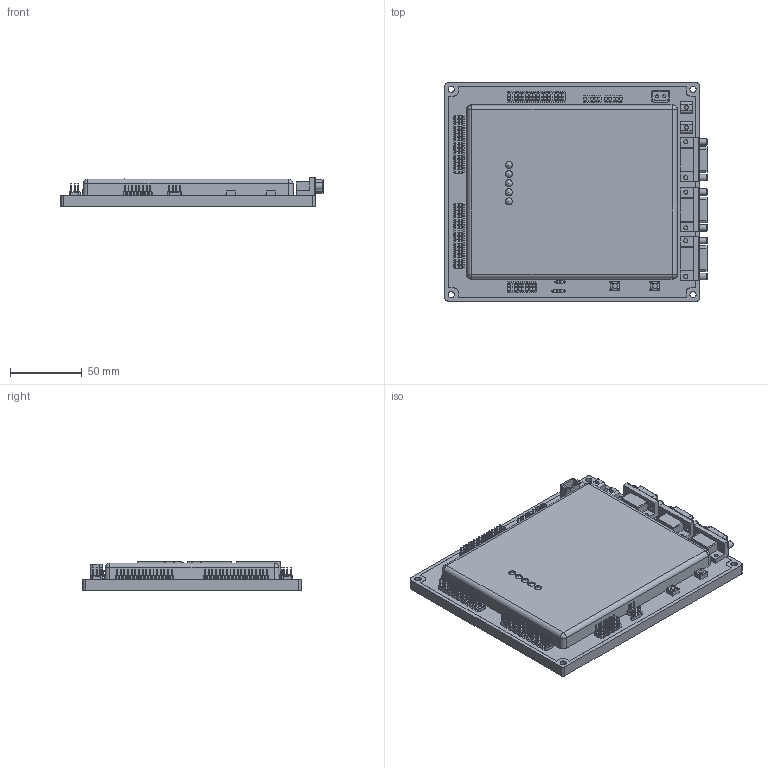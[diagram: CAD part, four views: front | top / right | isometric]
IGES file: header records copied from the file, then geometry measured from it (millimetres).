
Global section: file name: No Iges File Name specified; native system: AutoDesk Inventor R6.0; preprocessor: AutoDesk Inventor Iges Exporter R6.0; author: No Author specified; organization: No Organization specified; date: 20060107.205903; units: inch
Bounding box: 183.2 x 152.4 x 20.33 mm (x, y, z)
Surface area: 185279.7 mm2 (no closed solid volume)
Topology: 0 solids, 0 shells, 6111 faces, 26959 edges, 26788 vertices
Faces by surface type: plane 5785, revolution 215, bspline 111
